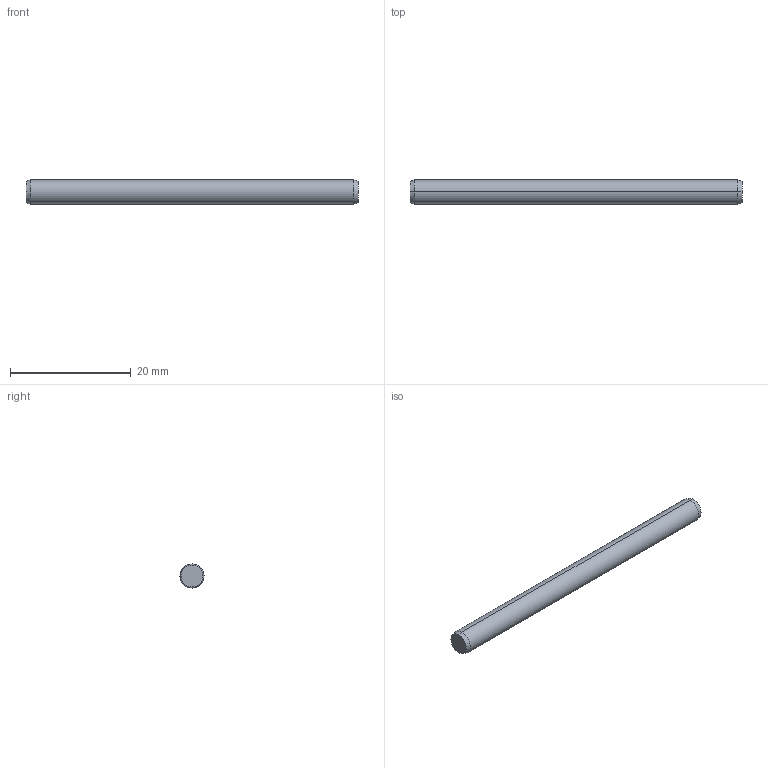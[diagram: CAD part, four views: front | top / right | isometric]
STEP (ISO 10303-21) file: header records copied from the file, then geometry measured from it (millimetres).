
FILE_DESCRIPTION (( 'STEP AP203' ), '1' );
FILE_NAME ('P1206.040-055.step', '2017-06-14T08:13:20', ( 'User' ), ( '' ), 'SwSTEP 2.0', 'SolidWorks 2009', '' );
FILE_SCHEMA (( 'CONFIG_CONTROL_DESIGN' ));
Length unit declared in the file: millimetre
Products named in the file (1): P1206.040-055
Bounding box: 55 x 4 x 4 mm (x, y, z)
Volume: 689.6 mm3; surface area: 711.6 mm2
Topology: 1 solids, 1 shells, 8 faces, 14 edges, 8 vertices
Faces by surface type: cone 4, cylinder 2, plane 2
Entity records: 271 total; most frequent: DIRECTION 40, CARTESIAN_POINT 31, ORIENTED_EDGE 28, AXIS2_PLACEMENT_3D 17, EDGE_CURVE 14, EDGE_LOOP 8, ADVANCED_FACE 8, VERTEX_POINT 8
